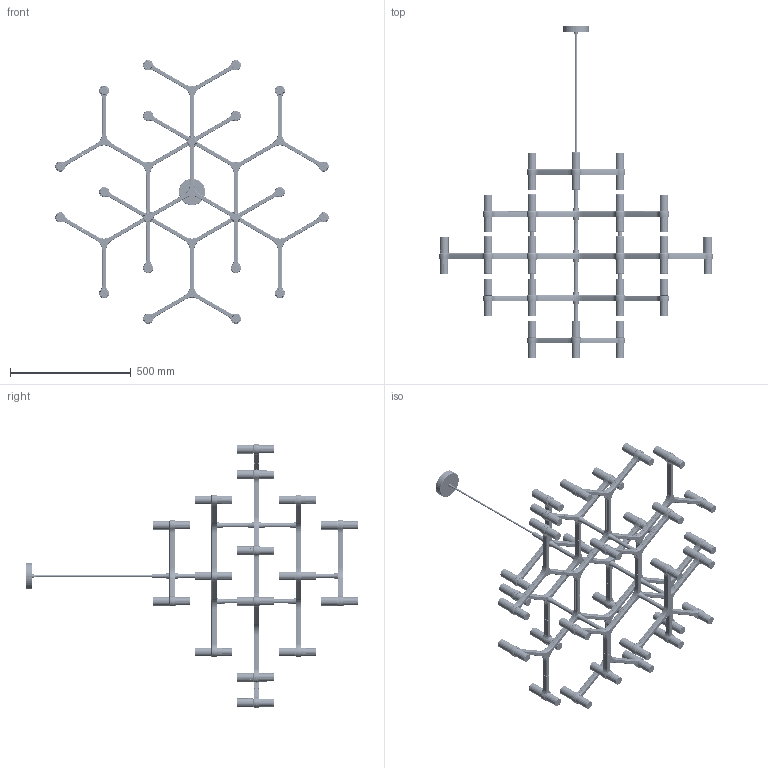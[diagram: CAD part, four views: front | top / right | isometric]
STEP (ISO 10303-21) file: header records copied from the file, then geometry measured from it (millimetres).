
FILE_DESCRIPTION (( 'STEP AP214' ), '1' );
FILE_NAME ('3D_CROWN_MAJOR.STEP', '2018-03-26T14:18:27', ( 'Utente' ), ( '' ), 'SwSTEP 2.0', 'SolidWorks 2016', '' );
FILE_SCHEMA (( 'AUTOMOTIVE_DESIGN' ));
Length unit declared in the file: millimetre
Products named in the file (7): Group6^3D_CROWN_MAJOR; Group5^3D_CROWN_MAJOR; Group4^3D_CROWN_MAJOR; Group3^3D_CROWN_MAJOR; Group2^3D_CROWN_MAJOR; Group1^3D_CROWN_MAJOR; 3D_CROWN_MAJOR
Assembly tree (6 placements, depth 2):
  3D_CROWN_MAJOR
    Group1^3D_CROWN_MAJOR
    Group2^3D_CROWN_MAJOR
    Group3^3D_CROWN_MAJOR
    Group4^3D_CROWN_MAJOR
    Group5^3D_CROWN_MAJOR
    Group6^3D_CROWN_MAJOR
Bounding box: 1134.73 x 1376.2 x 1093.41 mm (x, y, z)
Volume: 6598239.1 mm3; surface area: 2158145 mm2
Topology: 218 solids, 226 shells, 7834 faces, 19620 edges, 12428 vertices
Faces by surface type: plane 2796, cylinder 2792, torus 1590, cone 656
Entity records: 263744 total; most frequent: DIRECTION 45256, CARTESIAN_POINT 41247, ORIENTED_EDGE 39240, EDGE_CURVE 19620, AXIS2_PLACEMENT_3D 17889, VERTEX_POINT 12428, CIRCLE 10046, LINE 9478
